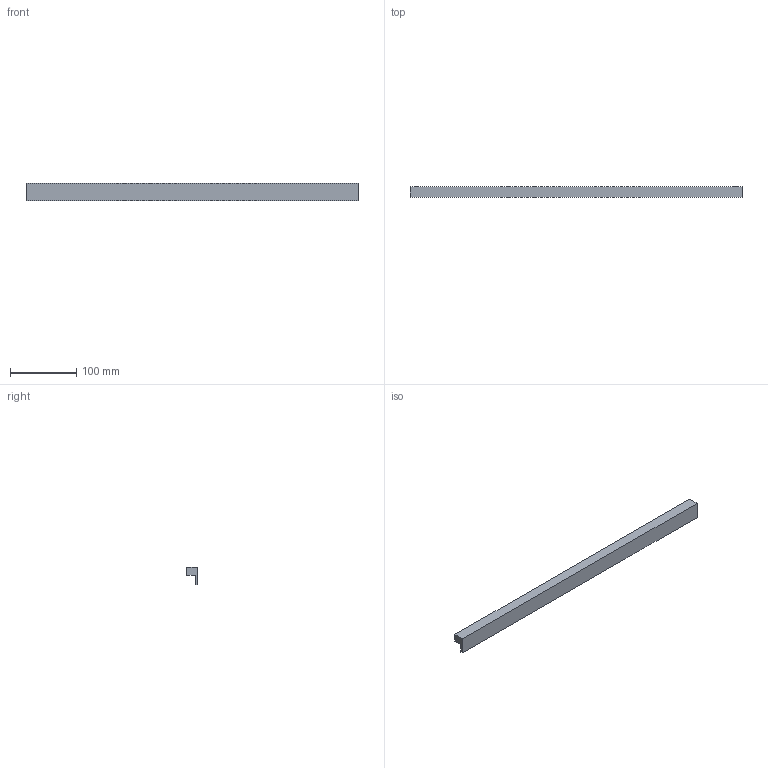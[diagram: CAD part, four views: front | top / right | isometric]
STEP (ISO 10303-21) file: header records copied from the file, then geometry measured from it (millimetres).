
FILE_DESCRIPTION( ( 'STEP AP214' ), '1' );
FILE_NAME( 'D:/Shahbaz D&D/Task/Check and correct handles with 3 drill sockets/Trani/9209007.stp', '2023-02-20T11:32:37', ( '' ), ( '' ), ' ', 'PARTsolutions', ' ' );
FILE_SCHEMA( ( 'AUTOMOTIVE_DESIGN { 1 0 10303 214 1 1 1 1 }' ) );
Length unit declared in the file: millimetre
Products named in the file (1): _9209007
Bounding box: 500 x 16 x 26 mm (x, y, z)
Volume: 116685.8 mm3; surface area: 42719.3 mm2
Topology: 1 solids, 1 shells, 12 faces, 24 edges, 16 vertices
Faces by surface type: plane 10, cylinder 2
Full cylindrical faces by diameter (mm): 5 x2
Entity records: 414 total; most frequent: DIRECTION 52, CARTESIAN_POINT 51, ORIENTED_EDGE 44, EDGE_CURVE 22, LINE 18, VECTOR 18, AXIS2_PLACEMENT_3D 17, EDGE_LOOP 16
